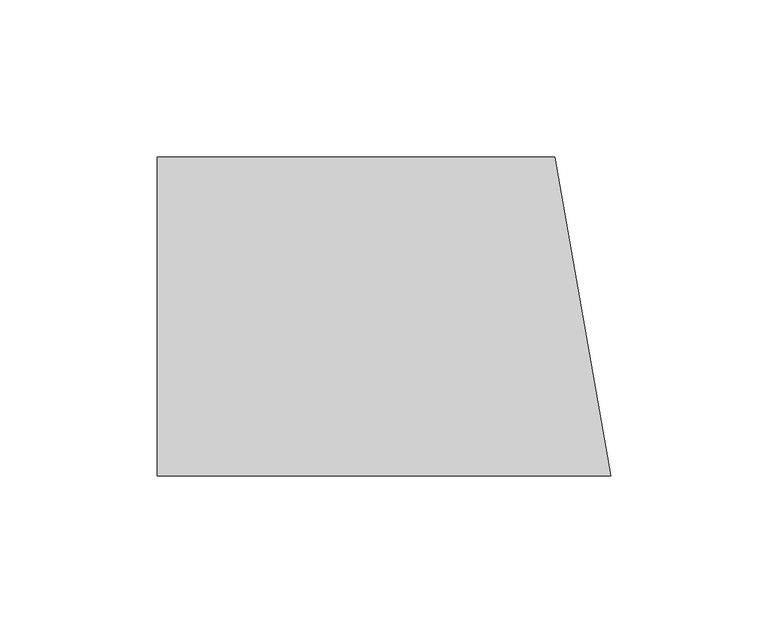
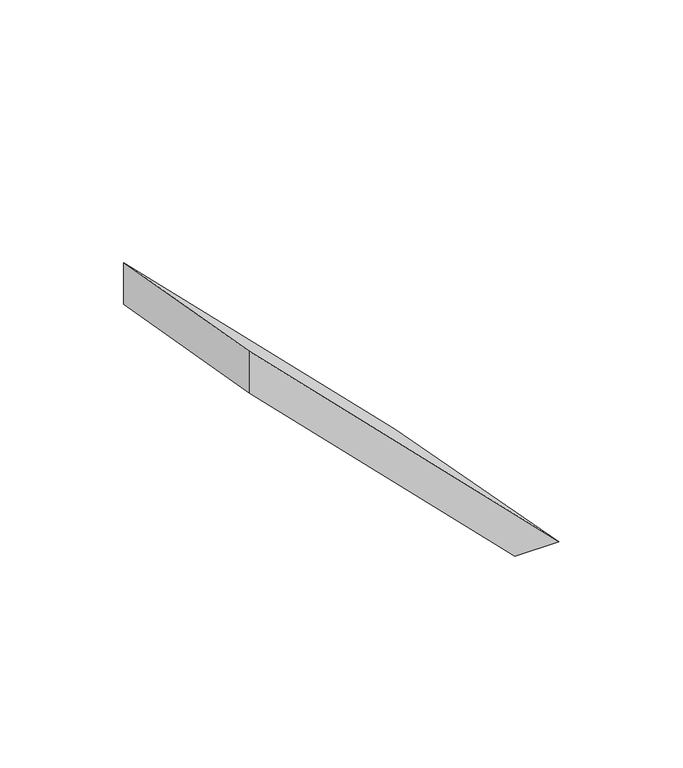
"""IFC4 building model written with IfcOpenShell, lengths in millimetres: proxy geometry, GRADIENT^TABLE 1_OCTAGON LEGS-APRON 2."""

from ifc_helpers import new_model, si_unit, origin, place, context, project, spatial, faceted_brep, source, transform, mapped, element, save


def generic_models_f53bcc3d(model_context):
    return source(origin(), model_context, "Body", "Brep", [
        faceted_brep([(76.2, 692.15, 164.655703), (76.2, 590.55, 182.5705242), (220.6705242, 590.55, 38.1), (202.755703, 692.15, 38.1), (200.0823476, 590.55, 38.1), (182.1675264, 692.15, 38.1), (76.2, 590.55, 161.9823476), (76.2, 692.15, 144.0675264)], [[[0, 1, 2, 3]], [[3, 2, 4, 5]], [[2, 1, 6, 4]], [[5, 4, 6, 7]], [[1, 0, 7, 6]], [[0, 3, 5, 7]]]),
    ])


if __name__ == "__main__":
    model = new_model("IFC4")
    model_context = context("Model", 3, world=origin())
    ifc_project = project(units=[si_unit("LENGTHUNIT", "METRE", prefix="MILLI")], contexts=[model_context])
    site = spatial("IfcSite", under=ifc_project)
    building = spatial("IfcBuilding", under=site)
    placement = place(None, origin())
    generic_models_shape = generic_models_f53bcc3d(model_context)
    element("IfcBuildingElementProxy", 1, Name="GRADIENT^TABLE 1_OCTAGON LEGS-APRON 2", ObjectType="GRADIENT^TABLE 1_OCTAGON LEGS-APRON 2", at=placement, inside=building, context=model_context, shape_type="MappedRepresentation", body=[
        mapped(generic_models_shape, transform((0.0, 0.0, 0.0), x_axis=(1.0, 0.0, 0.0), y_axis=(0.0, 1.0, 0.0), z_axis=(0.0, 0.0, 1.0))),
    ])
    save(model, "model.ifc")
